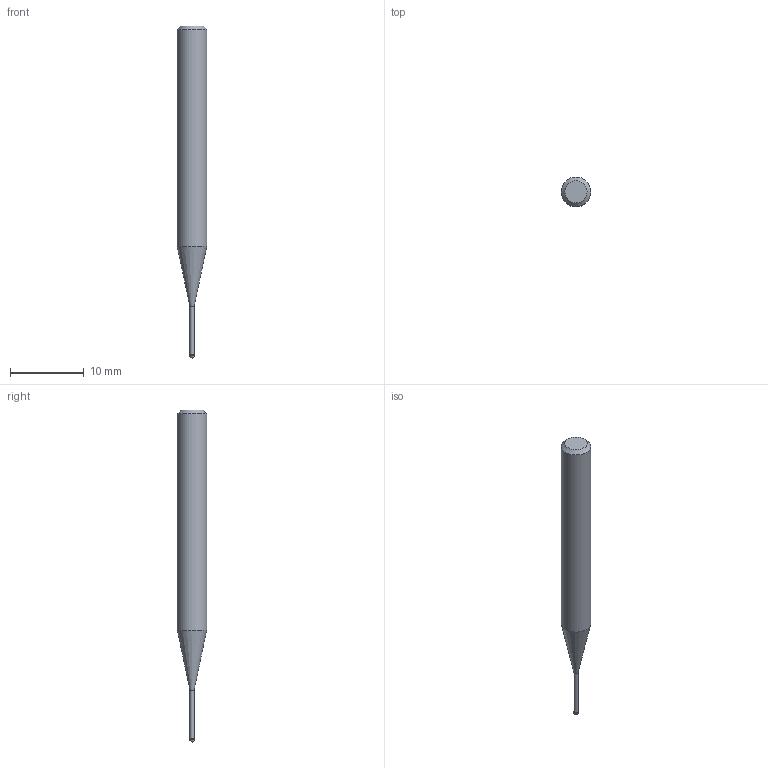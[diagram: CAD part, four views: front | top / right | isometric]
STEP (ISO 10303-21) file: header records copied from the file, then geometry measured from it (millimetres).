
FILE_DESCRIPTION((''),'2;1');
FILE_NAME('C:\Users\nsx150\AppData\Local\Temp\Mastercam 2021\ARV7HD45SN\TEMP.step','2023-06-13T16:34:18',(''),(''),'STEP Write','Mastercam 2021 ... CNC Software, Inc.','');
FILE_SCHEMA(('AUTOMOTIVE_DESIGN'));
Length unit declared in the file: millimetre
Products named in the file (1): None
Bounding box: 4 x 4 x 45 mm (x, y, z)
Volume: 415.4 mm3; surface area: 456.6 mm2
Topology: 2 solids, 2 shells, 9 faces, 14 edges, 8 vertices
Faces by surface type: plane 3, cylinder 3, cone 2, sphere 1
Full cylindrical faces by diameter (mm): 0.56 x1, 0.6 x1, 4 x1
Entity records: 211 total; most frequent: DIRECTION 36, CARTESIAN_POINT 25, AXIS2_PLACEMENT_3D 18, ORIENTED_EDGE 14, EDGE_LOOP 14, STYLED_ITEM 12, ADVANCED_FACE 9, FACE_BOUND 8
